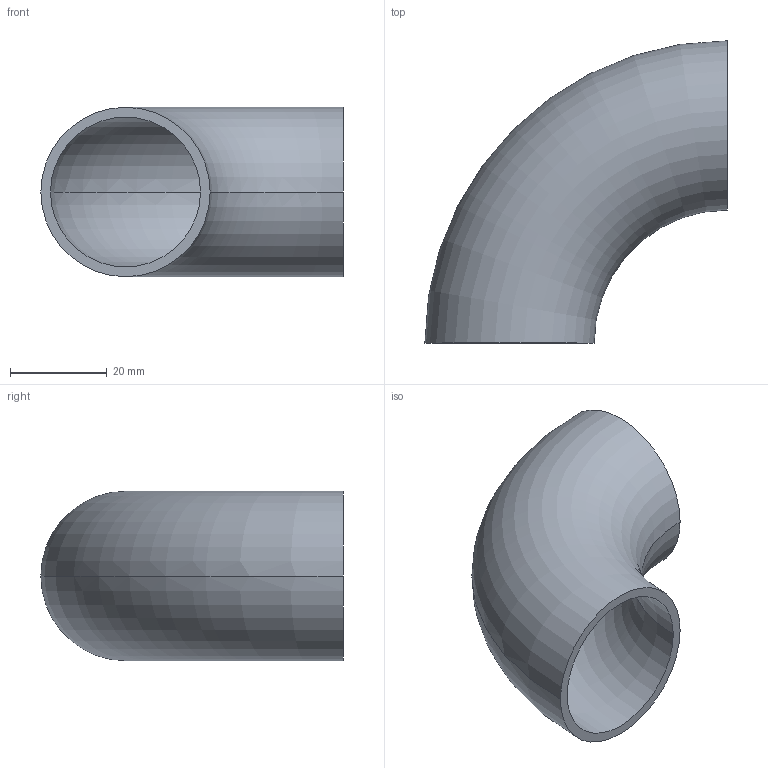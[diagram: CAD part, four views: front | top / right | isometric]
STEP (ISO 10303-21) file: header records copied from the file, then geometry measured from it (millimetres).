
FILE_DESCRIPTION (( 'STEP AP203' ), '1' );
FILE_NAME ('OT212-32-35x2_OSTP.step', '2020-12-16T01:48:18', ( '' ), ( '' ), 'SwSTEP 2.0', 'SolidWorks 2014', '' );
FILE_SCHEMA (( 'CONFIG_CONTROL_DESIGN' ));
Length unit declared in the file: millimetre
Products named in the file (1): OT212-32-35x2_OSTP
Bounding box: 62.5 x 62.5 x 35 mm (x, y, z)
Volume: 14656.4 mm3; surface area: 15071.1 mm2
Topology: 1 solids, 1 shells, 6 faces, 12 edges, 8 vertices
Faces by surface type: torus 4, plane 2
Entity records: 249 total; most frequent: DIRECTION 38, CARTESIAN_POINT 27, ORIENTED_EDGE 24, AXIS2_PLACEMENT_3D 19, EDGE_CURVE 12, CIRCLE 12, PERSON_AND_ORGANIZATION 8, EDGE_LOOP 8
